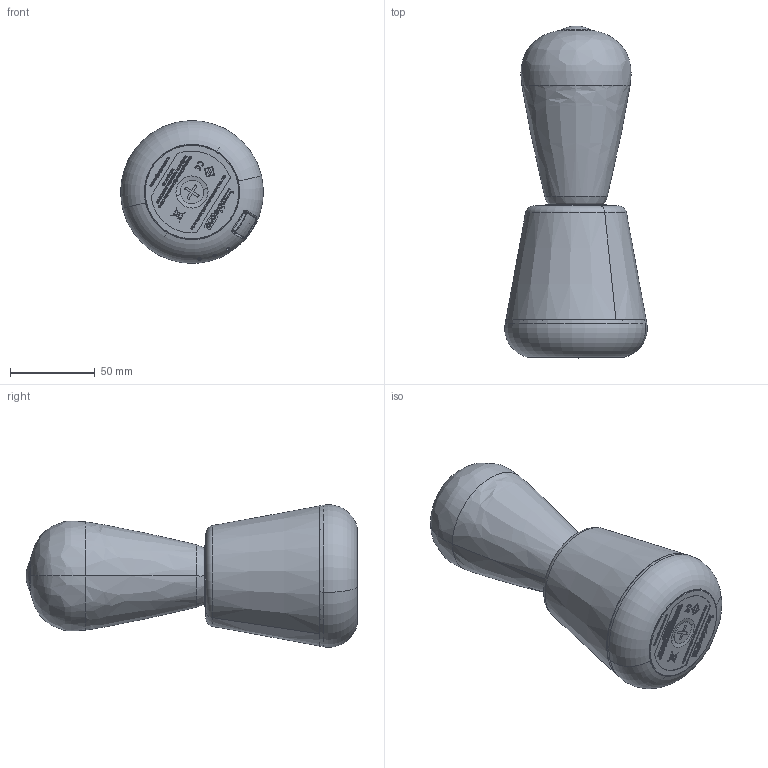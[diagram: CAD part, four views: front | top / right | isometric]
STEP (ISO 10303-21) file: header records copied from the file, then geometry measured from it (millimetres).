
FILE_DESCRIPTION (( 'STEP AP214' ), '1' );
FILE_NAME ('Humble-One.STEP', '2023-06-21T12:47:55', ( '' ), ( '' ), 'SwSTEP 2.0', 'SolidWorks 2023', '' );
FILE_SCHEMA (( 'AUTOMOTIVE_DESIGN' ));
Length unit declared in the file: millimetre
Products named in the file (2): Humble-One
Assembly tree (1 placements, depth 2):
  Humble-One
    Humble-One
Bounding box: 84.27 x 196.22 x 84.27 mm (x, y, z)
Volume: 415390.8 mm3; surface area: 102974.3 mm2
Topology: 20 solids, 22 shells, 2963 faces, 7859 edges, 5171 vertices
Faces by surface type: plane 1341, bspline 1205, cylinder 258, torus 103, cone 34, sphere 22
Entity records: 146256 total; most frequent: CARTESIAN_POINT 49608, ORIENTED_EDGE 15674, DIRECTION 9402, EDGE_CURVE 7837, VERTEX_POINT 5159, VECTOR 4466, LINE 4466, EDGE_LOOP 3214
